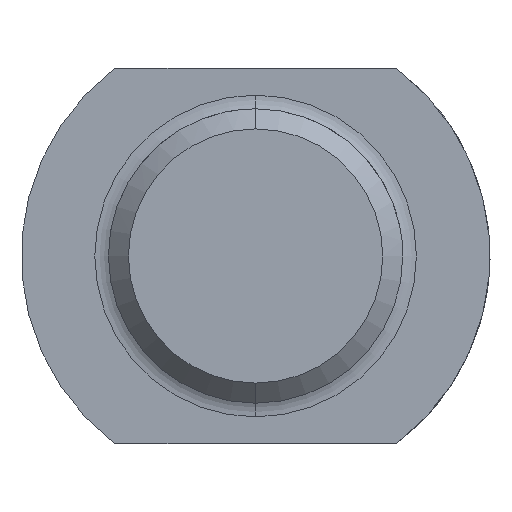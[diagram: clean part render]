
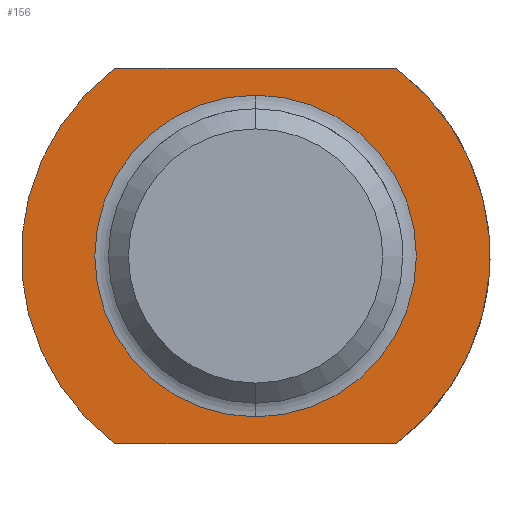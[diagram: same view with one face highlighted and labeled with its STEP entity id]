
A CAD part, left-side view. The second image highlights one B-rep face of the part: STEP entity #156.
In plain terms, the highlighted planar face has unit normal (-1, 0, 0).
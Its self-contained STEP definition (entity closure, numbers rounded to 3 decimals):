
#57=CARTESIAN_POINT('Line Origine',(0.,0.,-17.2)) ;
#61=CARTESIAN_POINT('Vertex',(0.,-12.9,-17.2)) ;
#63=CARTESIAN_POINT('Vertex',(0.,12.9,-17.2)) ;
#92=CARTESIAN_POINT('Axis2P3D Location',(0.,14.75,0.)) ;
#97=CARTESIAN_POINT('Axis2P3D Location',(0.,0.,0.)) ;
#101=CARTESIAN_POINT('Vertex',(0.,12.9,17.2)) ;
#104=CARTESIAN_POINT('Axis2P3D Location',(0.,0.,0.)) ;
#108=CARTESIAN_POINT('Vertex',(0.,-12.9,17.2)) ;
#111=CARTESIAN_POINT('Line Origine',(0.,0.,17.2)) ;
#122=CARTESIAN_POINT('Axis2P3D Location',(0.,0.,0.)) ;
#126=CARTESIAN_POINT('Vertex',(0.,14.75,0.)) ;
#128=CARTESIAN_POINT('Vertex',(0.,0.,14.75)) ;
#131=CARTESIAN_POINT('Axis2P3D Location',(0.,0.,0.)) ;
#135=CARTESIAN_POINT('Vertex',(0.,-14.75,0.)) ;
#138=CARTESIAN_POINT('Axis2P3D Location',(0.,0.,0.)) ;
#142=CARTESIAN_POINT('Vertex',(0.,0.,-14.75)) ;
#145=CARTESIAN_POINT('Axis2P3D Location',(0.,0.,0.)) ;
#58=DIRECTION('Vector Direction',(0.,1.,0.)) ;
#93=DIRECTION('Axis2P3D Direction',(1.,0.,-0.)) ;
#94=DIRECTION('Axis2P3D XDirection',(-0.,0.,-1.)) ;
#98=DIRECTION('Axis2P3D Direction',(1.,0.,-0.)) ;
#105=DIRECTION('Axis2P3D Direction',(1.,0.,-0.)) ;
#112=DIRECTION('Vector Direction',(0.,-1.,0.)) ;
#123=DIRECTION('Axis2P3D Direction',(1.,0.,-0.)) ;
#132=DIRECTION('Axis2P3D Direction',(1.,0.,-0.)) ;
#139=DIRECTION('Axis2P3D Direction',(1.,0.,-0.)) ;
#146=DIRECTION('Axis2P3D Direction',(1.,0.,-0.)) ;
#95=AXIS2_PLACEMENT_3D('Plane Axis2P3D',#92,#93,#94) ;
#99=AXIS2_PLACEMENT_3D('Circle Axis2P3D',#97,#98,$) ;
#106=AXIS2_PLACEMENT_3D('Circle Axis2P3D',#104,#105,$) ;
#124=AXIS2_PLACEMENT_3D('Circle Axis2P3D',#122,#123,$) ;
#133=AXIS2_PLACEMENT_3D('Circle Axis2P3D',#131,#132,$) ;
#140=AXIS2_PLACEMENT_3D('Circle Axis2P3D',#138,#139,$) ;
#147=AXIS2_PLACEMENT_3D('Circle Axis2P3D',#145,#146,$) ;
#117=ORIENTED_EDGE('',*,*,#103,.F.) ;
#118=ORIENTED_EDGE('',*,*,#65,.F.) ;
#119=ORIENTED_EDGE('',*,*,#110,.F.) ;
#120=ORIENTED_EDGE('',*,*,#115,.F.) ;
#151=ORIENTED_EDGE('',*,*,#130,.T.) ;
#152=ORIENTED_EDGE('',*,*,#137,.T.) ;
#153=ORIENTED_EDGE('',*,*,#144,.T.) ;
#154=ORIENTED_EDGE('',*,*,#149,.T.) ;
#155=FACE_BOUND('',#150,.T.) ;
#59=VECTOR('Line Direction',#58,1.) ;
#113=VECTOR('Line Direction',#112,1.) ;
#156=ADVANCED_FACE('AGS3421M27',(#121,#155),#96,.F.) ;
#100=CIRCLE('generated circle',#99,21.5) ;
#107=CIRCLE('generated circle',#106,21.5) ;
#125=CIRCLE('generated circle',#124,14.75) ;
#134=CIRCLE('generated circle',#133,14.75) ;
#141=CIRCLE('generated circle',#140,14.75) ;
#148=CIRCLE('generated circle',#147,14.75) ;
#65=EDGE_CURVE('',#62,#64,#60,.T.) ;
#103=EDGE_CURVE('',#64,#102,#100,.T.) ;
#110=EDGE_CURVE('',#109,#62,#107,.T.) ;
#115=EDGE_CURVE('',#102,#109,#114,.T.) ;
#130=EDGE_CURVE('',#127,#129,#125,.T.) ;
#137=EDGE_CURVE('',#129,#136,#134,.T.) ;
#144=EDGE_CURVE('',#136,#143,#141,.T.) ;
#149=EDGE_CURVE('',#143,#127,#148,.T.) ;
#116=EDGE_LOOP('',(#117,#118,#119,#120)) ;
#150=EDGE_LOOP('',(#151,#152,#153,#154)) ;
#121=FACE_OUTER_BOUND('',#116,.T.) ;
#60=LINE('Line',#57,#59) ;
#114=LINE('Line',#111,#113) ;
#96=PLANE('Plane',#95) ;
#62=VERTEX_POINT('',#61) ;
#64=VERTEX_POINT('',#63) ;
#102=VERTEX_POINT('',#101) ;
#109=VERTEX_POINT('',#108) ;
#127=VERTEX_POINT('',#126) ;
#129=VERTEX_POINT('',#128) ;
#136=VERTEX_POINT('',#135) ;
#143=VERTEX_POINT('',#142) ;
